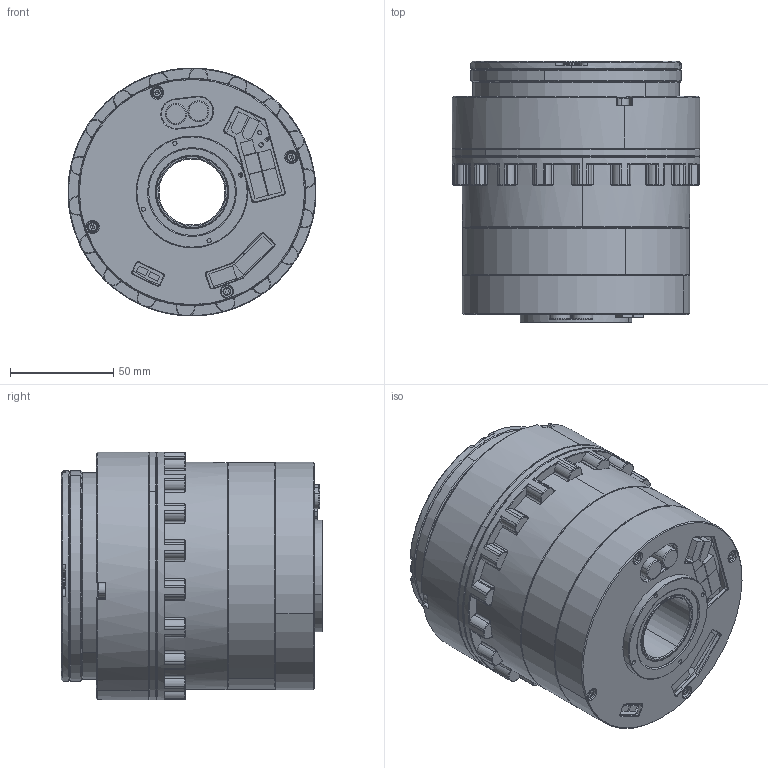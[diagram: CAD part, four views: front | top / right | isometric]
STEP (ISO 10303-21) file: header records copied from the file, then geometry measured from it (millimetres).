
FILE_DESCRIPTION (( 'STEP AP203' ), '1' );
FILE_NAME ('CRA-RI100-120-PRO-XX-B-2E-EC.STEP', '2024-09-04T09:54:28', ( '' ), ( '' ), 'SwSTEP 2.0', 'SolidWorks 2021', '' );
FILE_SCHEMA (( 'CONFIG_CONTROL_DESIGN' ));
Length unit declared in the file: millimetre
Products named in the file (1): CRA-RI100-120-PRO-XX-B-2E-EC
Bounding box: 120 x 126.5 x 119.97 mm (x, y, z)
Surface area: 131771.8 mm2 (no closed solid volume)
Topology: 0 solids, 120 shells, 1418 faces, 5318 edges, 3936 vertices
Faces by surface type: plane 515, cylinder 420, cone 410, torus 72, bspline 1
Entity records: 61870 total; most frequent: CARTESIAN_POINT 16384, DIRECTION 9921, ORIENTED_EDGE 8141, EDGE_CURVE 5308, VERTEX_POINT 3936, AXIS2_PLACEMENT_3D 3635, LINE 2651, VECTOR 2651
